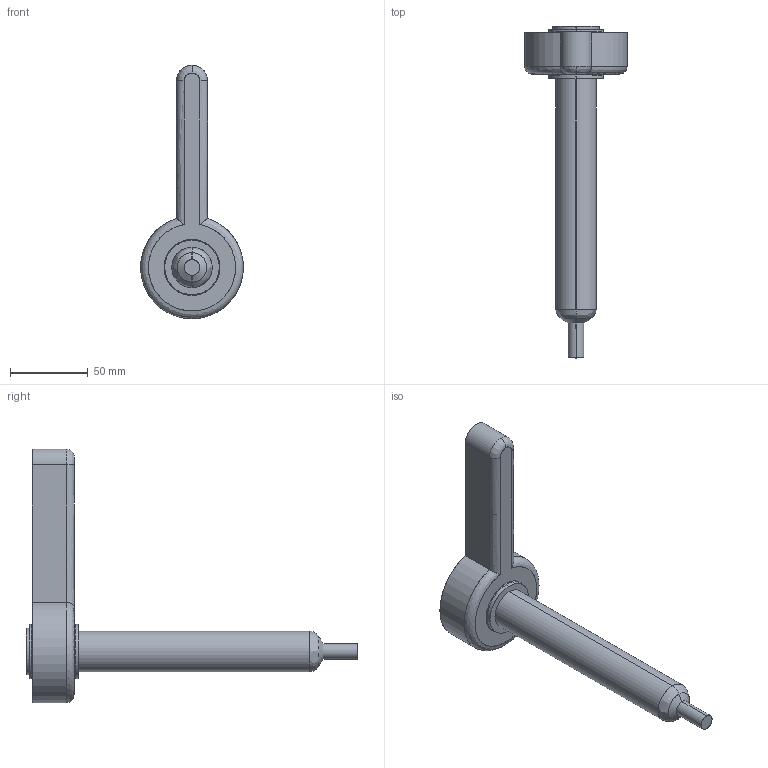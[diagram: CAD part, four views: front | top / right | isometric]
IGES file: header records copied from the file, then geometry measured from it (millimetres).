
Start section: SolidWorks IGES file using analytic representation for surfaces
Global section: file name: C:\Users\luca.EMPAD\Desktop\TEM\Sede UGBE3504-S-A C-159 L-191 P-20.IGS; native system: SolidWorks 2012; preprocessor: SolidWorks 2012; author: luca; date: 120330.142839; units: millimetre
Bounding box: 65.98 x 213.4 x 163 mm (x, y, z)
Surface area: 34297.3 mm2 (no closed solid volume)
Topology: 0 solids, 0 shells, 34 faces, 754 edges, 754 vertices
Faces by surface type: revolution 21, bspline 13
